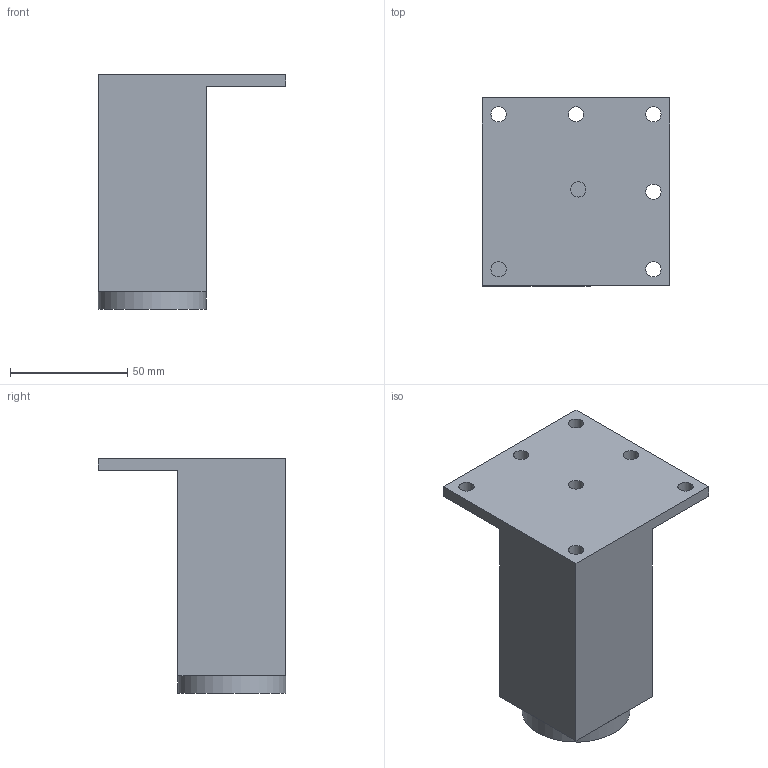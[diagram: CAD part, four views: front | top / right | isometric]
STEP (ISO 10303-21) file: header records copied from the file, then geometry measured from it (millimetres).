
FILE_DESCRIPTION( ( 'STEP AP214' ), '1' );
FILE_NAME( 'D:/Yug/2021/Desk_and_office_organisation/QC/9119543.stp', '2021-01-06T05:13:53', ( '' ), ( '' ), ' ', 'PARTsolutions', ' ' );
FILE_SCHEMA( ( 'AUTOMOTIVE_DESIGN { 1 0 10303 214 1 1 1 1 }' ) );
Length unit declared in the file: millimetre
Products named in the file (1): _9119543
Bounding box: 80 x 80 x 100 mm (x, y, z)
Volume: 228460 mm3; surface area: 31966.6 mm2
Topology: 1 solids, 1 shells, 23 faces, 52 edges, 33 vertices
Faces by surface type: plane 15, cylinder 8
Full cylindrical faces by diameter (mm): 6.48 x7, 46 x1
Entity records: 825 total; most frequent: DIRECTION 111, CARTESIAN_POINT 101, ORIENTED_EDGE 88, EDGE_CURVE 44, AXIS2_PLACEMENT_3D 43, EDGE_LOOP 43, VERTEX_POINT 33, FACE_OUTER_BOUND 31
